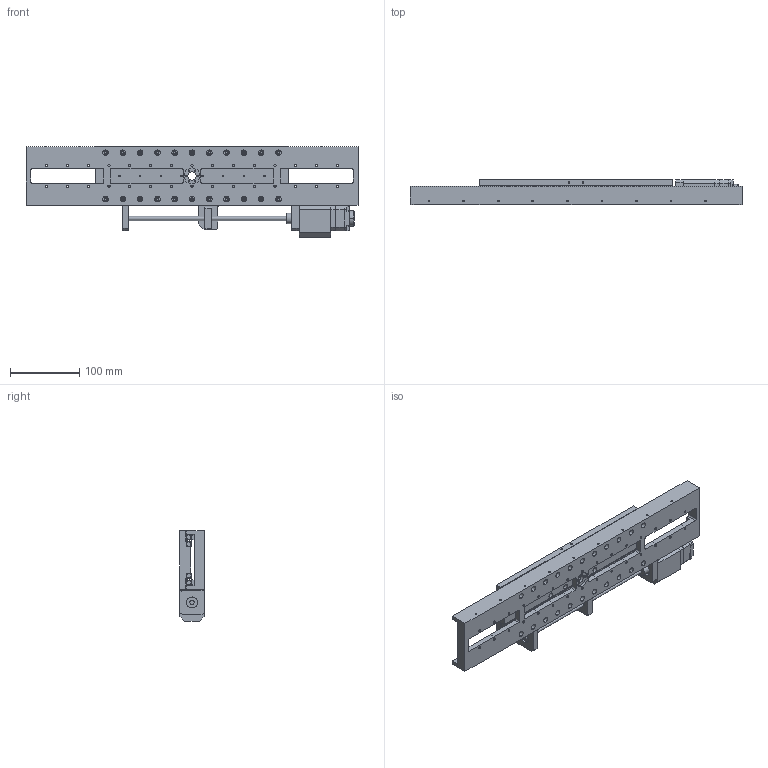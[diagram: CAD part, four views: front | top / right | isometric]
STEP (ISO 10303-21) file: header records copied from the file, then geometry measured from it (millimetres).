
FILE_DESCRIPTION (( 'STEP AP214' ), '1' );
FILE_NAME ('VSM17-X-200-HR.STEP', '2022-12-15T14:58:37', ( '' ), ( '' ), 'SwSTEP 2.0', 'SolidWorks 2022', '' );
FILE_SCHEMA (( 'AUTOMOTIVE_DESIGN' ));
Length unit declared in the file: millimetre
Products named in the file (9): VSM17-X-200-HR; CRW3_275C35SL_7; Simplified VSM17-X-200 Base V2; Simplified Drivetrain_VSM17-X-200; Simplified VSM17-X-200 Carriage; Simplified Motor Gearbox; Simplified Leadscrew Nut; Simplified Motor; Simplified Gearbox
Assembly tree (11 placements, depth 3):
  VSM17-X-200-HR
    Simplified VSM17-X-200 Base V2
    CRW3_275C35SL_7  x4
    Simplified VSM17-X-200 Carriage
    Simplified Drivetrain_VSM17-X-200
    Simplified Leadscrew Nut
    Simplified Motor Gearbox
      Simplified Gearbox
      Simplified Motor
Bounding box: 480 x 36 x 131.5 mm (x, y, z)
Volume: 891400.6 mm3; surface area: 273723.9 mm2
Topology: 10 solids, 10 shells, 1253 faces, 3172 edges, 2015 vertices
Faces by surface type: cylinder 682, plane 353, cone 202, torus 16
Entity records: 31071 total; most frequent: DIRECTION 5105, CARTESIAN_POINT 4740, ORIENTED_EDGE 4404, EDGE_CURVE 2202, AXIS2_PLACEMENT_3D 2027, VERTEX_POINT 1442, EDGE_LOOP 1262, CIRCLE 1140
